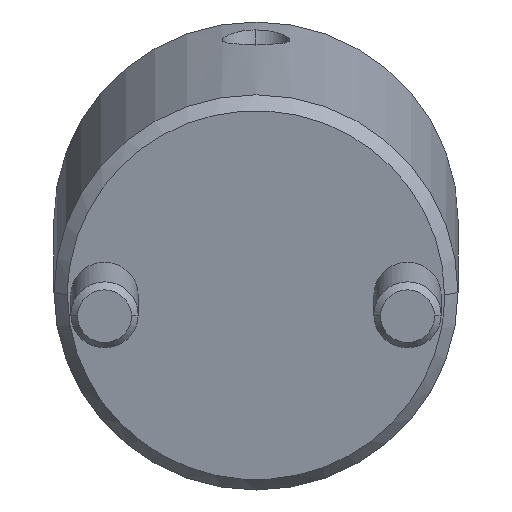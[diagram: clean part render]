
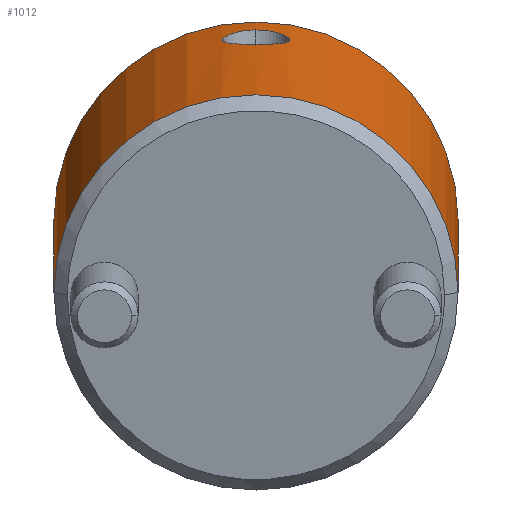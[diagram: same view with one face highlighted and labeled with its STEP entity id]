
A CAD part, front view. The second image highlights one B-rep face of the part: STEP entity #1012.
In plain terms, the highlighted cylindrical face has radius 15 mm (diameter 30 mm), a partial arc.
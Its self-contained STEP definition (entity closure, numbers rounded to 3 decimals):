
#778=CARTESIAN_POINT('Vertex',(0.,15.,1.)) ;
#781=CARTESIAN_POINT('Axis2P3D Location',(0.,0.,1.)) ;
#785=CARTESIAN_POINT('Vertex',(0.,-15.,1.)) ;
#925=CARTESIAN_POINT('Axis2P3D Location',(0.,0.,-1.4)) ;
#930=CARTESIAN_POINT('Line Origine',(0.,15.,-1.4)) ;
#934=CARTESIAN_POINT('Vertex',(0.,15.,27.)) ;
#937=CARTESIAN_POINT('Axis2P3D Location',(0.,0.,27.)) ;
#941=CARTESIAN_POINT('Vertex',(0.,-15.,27.)) ;
#944=CARTESIAN_POINT('Line Origine',(0.,-15.,-1.4)) ;
#956=CARTESIAN_POINT('Control Point',(15.,0.,24.158)) ;
#957=CARTESIAN_POINT('Control Point',(15.,0.223,24.158)) ;
#958=CARTESIAN_POINT('Control Point',(14.996,0.444,24.134)) ;
#959=CARTESIAN_POINT('Control Point',(14.987,0.669,24.078)) ;
#960=CARTESIAN_POINT('Control Point',(14.963,1.104,23.918)) ;
#961=CARTESIAN_POINT('Control Point',(14.928,1.484,23.664)) ;
#962=CARTESIAN_POINT('Control Point',(14.909,1.662,23.513)) ;
#963=CARTESIAN_POINT('Control Point',(14.876,1.931,23.23)) ;
#964=CARTESIAN_POINT('Control Point',(14.846,2.144,22.899)) ;
#965=CARTESIAN_POINT('Control Point',(14.835,2.22,22.758)) ;
#966=CARTESIAN_POINT('Control Point',(14.815,2.351,22.469)) ;
#967=CARTESIAN_POINT('Control Point',(14.801,2.437,22.162)) ;
#968=CARTESIAN_POINT('Control Point',(14.796,2.468,22.007)) ;
#969=CARTESIAN_POINT('Control Point',(14.784,2.538,21.458)) ;
#970=CARTESIAN_POINT('Control Point',(14.796,2.464,20.906)) ;
#971=CARTESIAN_POINT('Control Point',(14.819,2.335,20.531)) ;
#972=CARTESIAN_POINT('Control Point',(14.867,2.024,19.992)) ;
#973=CARTESIAN_POINT('Control Point',(14.919,1.572,19.578)) ;
#974=CARTESIAN_POINT('Control Point',(14.938,1.383,19.441)) ;
#975=CARTESIAN_POINT('Control Point',(14.969,1.009,19.231)) ;
#976=CARTESIAN_POINT('Control Point',(14.99,0.59,19.105)) ;
#977=CARTESIAN_POINT('Control Point',(14.997,0.391,19.065)) ;
#978=CARTESIAN_POINT('Control Point',(15.,0.196,19.047)) ;
#979=CARTESIAN_POINT('Control Point',(15.,0.,19.047)) ;
#980=CARTESIAN_POINT('Vertex',(15.,0.,24.158)) ;
#982=CARTESIAN_POINT('Vertex',(15.,0.,19.047)) ;
#986=CARTESIAN_POINT('Control Point',(15.,0.,19.047)) ;
#987=CARTESIAN_POINT('Control Point',(15.,-0.15,19.047)) ;
#988=CARTESIAN_POINT('Control Point',(14.998,-0.301,19.057)) ;
#989=CARTESIAN_POINT('Control Point',(14.994,-0.451,19.08)) ;
#990=CARTESIAN_POINT('Control Point',(14.983,-0.754,19.15)) ;
#991=CARTESIAN_POINT('Control Point',(14.965,-1.043,19.264)) ;
#992=CARTESIAN_POINT('Control Point',(14.954,-1.179,19.331)) ;
#993=CARTESIAN_POINT('Control Point',(14.909,-1.707,19.642)) ;
#994=CARTESIAN_POINT('Control Point',(14.853,-2.125,20.104)) ;
#995=CARTESIAN_POINT('Control Point',(14.815,-2.354,20.52)) ;
#996=CARTESIAN_POINT('Control Point',(14.772,-2.606,21.452)) ;
#997=CARTESIAN_POINT('Control Point',(14.803,-2.427,22.416)) ;
#998=CARTESIAN_POINT('Control Point',(14.837,-2.225,22.87)) ;
#999=CARTESIAN_POINT('Control Point',(14.892,-1.846,23.382)) ;
#1000=CARTESIAN_POINT('Control Point',(14.94,-1.351,23.749)) ;
#1001=CARTESIAN_POINT('Control Point',(14.951,-1.222,23.83)) ;
#1002=CARTESIAN_POINT('Control Point',(14.974,-0.915,23.992)) ;
#1003=CARTESIAN_POINT('Control Point',(14.991,-0.577,24.099)) ;
#1004=CARTESIAN_POINT('Control Point',(14.997,-0.384,24.14)) ;
#1005=CARTESIAN_POINT('Control Point',(15.,-0.193,24.158)) ;
#1006=CARTESIAN_POINT('Control Point',(15.,0.,24.158)) ;
#782=DIRECTION('Axis2P3D Direction',(0.,0.,1.)) ;
#926=DIRECTION('Axis2P3D Direction',(0.,-0.,1.)) ;
#927=DIRECTION('Axis2P3D XDirection',(0.,-1.,0.)) ;
#931=DIRECTION('Vector Direction',(0.,0.,1.)) ;
#938=DIRECTION('Axis2P3D Direction',(0.,-0.,1.)) ;
#945=DIRECTION('Vector Direction',(0.,0.,1.)) ;
#783=AXIS2_PLACEMENT_3D('Circle Axis2P3D',#781,#782,$) ;
#928=AXIS2_PLACEMENT_3D('Cylinder Axis2P3D',#925,#926,#927) ;
#939=AXIS2_PLACEMENT_3D('Circle Axis2P3D',#937,#938,$) ;
#950=ORIENTED_EDGE('',*,*,#936,.F.) ;
#951=ORIENTED_EDGE('',*,*,#943,.T.) ;
#952=ORIENTED_EDGE('',*,*,#948,.T.) ;
#953=ORIENTED_EDGE('',*,*,#787,.F.) ;
#1009=ORIENTED_EDGE('',*,*,#984,.T.) ;
#1010=ORIENTED_EDGE('',*,*,#1007,.T.) ;
#1011=FACE_BOUND('',#1008,.T.) ;
#932=VECTOR('Line Direction',#931,1.) ;
#946=VECTOR('Line Direction',#945,1.) ;
#1012=ADVANCED_FACE('MANIFOLD_SOLID_BREP #1110',(#954,#1011),#929,.T.) ;
#955=B_SPLINE_CURVE_WITH_KNOTS('',5,(#956,#957,#958,#959,#960,#961,#962,#963,#964,#965,#966,#967,#968,#969,#970,#971,#972,#973,#974,#975,#976,#977,#978,#979),.UNSPECIFIED.,.F.,.U.,(6,3,3,3,3,3,3,6),(0.,1.614,3.274,4.384,5.483,8.212,9.837,11.252),.UNSPECIFIED.) ;
#985=B_SPLINE_CURVE_WITH_KNOTS('',5,(#986,#987,#988,#989,#990,#991,#992,#993,#994,#995,#996,#997,#998,#999,#1000,#1001,#1002,#1003,#1004,#1005,#1006),.UNSPECIFIED.,.F.,.U.,(6,3,3,3,3,3,6),(0.,1.095,2.187,5.473,8.792,9.874,11.262),.UNSPECIFIED.) ;
#784=CIRCLE('generated circle',#783,15.) ;
#940=CIRCLE('generated circle',#939,15.) ;
#929=CYLINDRICAL_SURFACE('generated cylinder',#928,15.) ;
#787=EDGE_CURVE('',#779,#786,#784,.F.) ;
#936=EDGE_CURVE('',#935,#779,#933,.F.) ;
#943=EDGE_CURVE('',#935,#942,#940,.F.) ;
#948=EDGE_CURVE('',#942,#786,#947,.F.) ;
#984=EDGE_CURVE('',#981,#983,#955,.T.) ;
#1007=EDGE_CURVE('',#983,#981,#985,.T.) ;
#949=EDGE_LOOP('',(#950,#951,#952,#953)) ;
#1008=EDGE_LOOP('',(#1009,#1010)) ;
#954=FACE_OUTER_BOUND('',#949,.T.) ;
#933=LINE('Line',#930,#932) ;
#947=LINE('Line',#944,#946) ;
#779=VERTEX_POINT('',#778) ;
#786=VERTEX_POINT('',#785) ;
#935=VERTEX_POINT('',#934) ;
#942=VERTEX_POINT('',#941) ;
#981=VERTEX_POINT('',#980) ;
#983=VERTEX_POINT('',#982) ;
